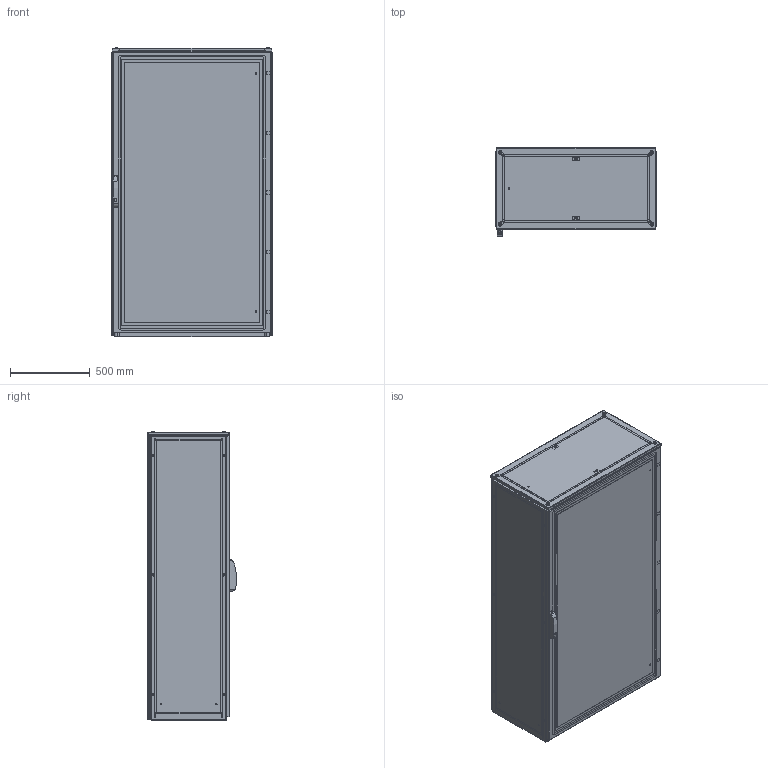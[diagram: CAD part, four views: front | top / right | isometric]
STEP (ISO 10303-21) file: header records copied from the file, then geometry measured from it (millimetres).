
FILE_DESCRIPTION(/* description */ ('STEP AP214'),/* implementation_level */ '2;1');
FILE_NAME(/* name */ 'ENUX101805PR-LOD350',/* time_stamp */ '2025-10-03T14:04:07+02:00',/* author */ ('License CC BY-ND 4.0'),/* organization */ ('CADENAS'),/* preprocessor_version */ 'ST-DEVELOPER v19.3',/* originating_system */ 'PARTsolutions',/* authorisation */ ' ');
FILE_SCHEMA (('AUTOMOTIVE_DESIGN {1 0 10303 214 3 1 1}'));
Length unit declared in the file: millimetre
Products named in the file (11): ENUX101805PR-LOD350; ENUX101805PR-LOD350_CON; ENUX101805PR-LOD350_floor1; ENUX101805PR-LOD350_floor2; Screw M12x30 architecture 350; ENUX101805PR-LOD350_side; ENUX101805PR-LOD350_top; ENUX101805PR-LOD350_back_door_r; ENUX101805PR-LOD350_back_door_l; ENUX101805PR-LOD350_door; ENUX101805PR-LOD350_handle
Assembly tree (20 placements, depth 2):
  ENUX101805PR-LOD350
    ENUX101805PR-LOD350_CON
    ENUX101805PR-LOD350_floor1  x4
    ENUX101805PR-LOD350_floor2  x4
    Screw M12x30 architecture 350  x4
    ENUX101805PR-LOD350_side  x2
    ENUX101805PR-LOD350_top
    ENUX101805PR-LOD350_back_door_r
    ENUX101805PR-LOD350_back_door_l
    ENUX101805PR-LOD350_door
    ENUX101805PR-LOD350_handle
Bounding box: 1012 x 557 x 1814.1 mm (x, y, z)
Volume: 23488882.9 mm3; surface area: 19016276.9 mm2
Topology: 20 solids, 20 shells, 2187 faces, 6084 edges, 3965 vertices
Faces by surface type: plane 1123, cylinder 864, cone 95, torus 88, sphere 17
Full cylindrical faces by diameter (mm): 4.5 x144, 6 x20, 6.8 x8, 7 x4, 9 x11, 12 x16, 13 x4, 14 x2, 17 x2, 18 x1, 21 x4, 28 x2
Entity records: 55041 total; most frequent: DIRECTION 9549, CARTESIAN_POINT 9505, ORIENTED_EDGE 8900, EDGE_CURVE 4450, AXIS2_PLACEMENT_3D 3421, VERTEX_POINT 3120, LINE 2707, VECTOR 2707
